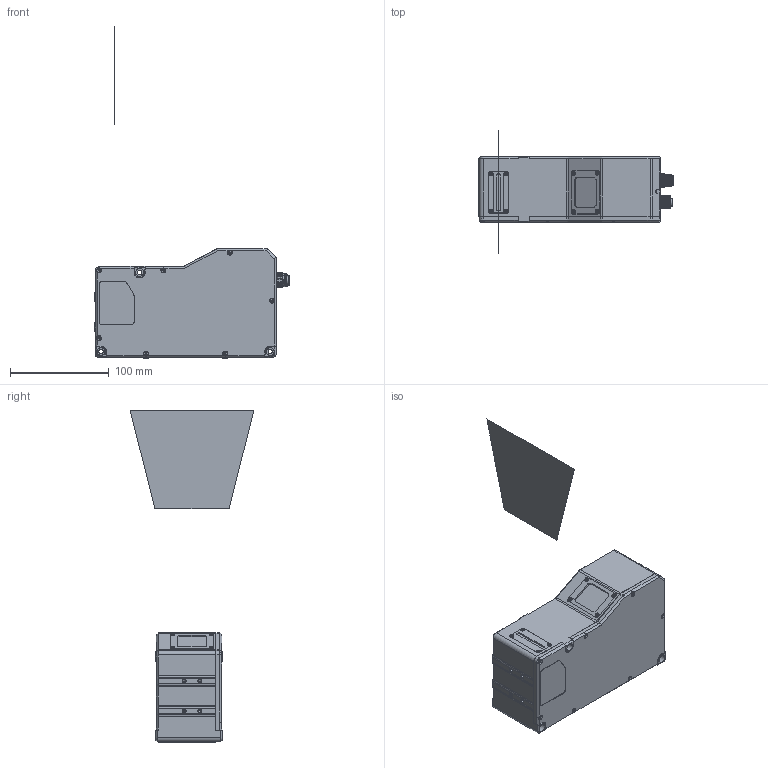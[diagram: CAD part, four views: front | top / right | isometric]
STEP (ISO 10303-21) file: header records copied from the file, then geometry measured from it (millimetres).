
FILE_DESCRIPTION((''),'2;1');
FILE_NAME('00_ALL_DP4180_SW0001','2024-09-09T14:41:22',('duhuaiyuan'),(''),'CREO PARAMETRIC BY PTC INC, 2020044','CREO PARAMETRIC BY PTC INC, 2020044','');
FILE_SCHEMA(('CONFIG_CONTROL_DESIGN'));
Length unit declared in the file: millimetre
Products named in the file (1): 00_ALL_DP4180_SW0001
Bounding box: 196.9 x 125 x 335.5 mm (x, y, z)
Surface area: 91605.3 mm2 (no closed solid volume)
Topology: 0 solids, 37 shells, 649 faces, 2191 edges, 1523 vertices
Faces by surface type: plane 239, cylinder 195, cone 149, bspline 43, torus 23
Entity records: 31528 total; most frequent: CARTESIAN_POINT 13292, DIRECTION 3641, ORIENTED_EDGE 3557, EDGE_CURVE 2161, VERTEX_POINT 1523, AXIS2_PLACEMENT_3D 1274, VECTOR 1093, LINE 1093
